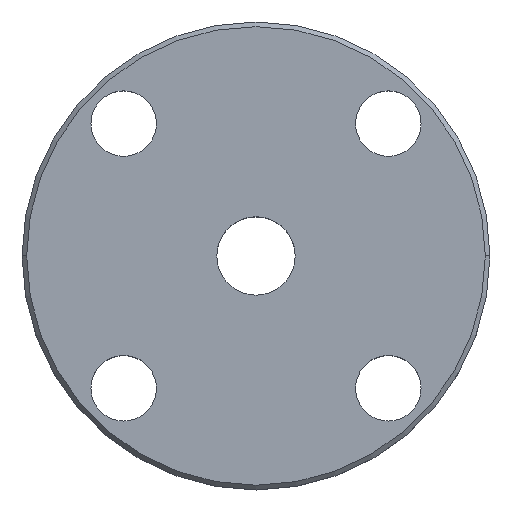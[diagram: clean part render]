
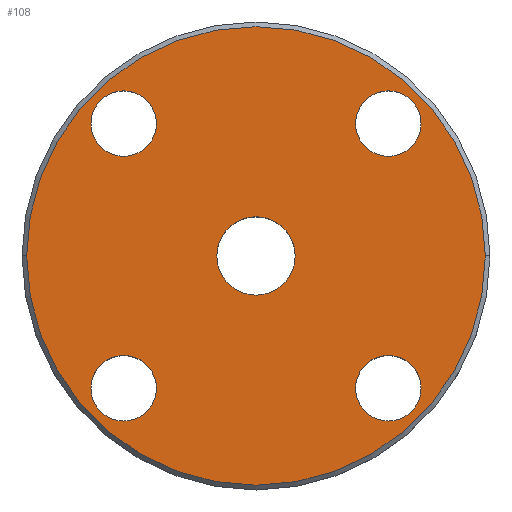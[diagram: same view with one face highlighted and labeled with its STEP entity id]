
A CAD part, top view. The second image highlights one B-rep face of the part: STEP entity #108.
In plain terms, the highlighted planar face has unit normal (0, 0, 1).
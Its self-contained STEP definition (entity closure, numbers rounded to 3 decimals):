
#3 = CIRCLE ( 'NONE', #862, 24.5 ) ;
#23 = CARTESIAN_POINT ( 'NONE',  ( -14.142, -17.642, 161. ) ) ;
#43 = ORIENTED_EDGE ( 'NONE', *, *, #992, .F. ) ;
#51 = AXIS2_PLACEMENT_3D ( 'NONE', #1113, #1017, #181 ) ;
#54 = DIRECTION ( 'NONE',  ( 0., 1., 0. ) ) ;
#63 = CARTESIAN_POINT ( 'NONE',  ( 14.142, 10.642, 161. ) ) ;
#72 = CARTESIAN_POINT ( 'NONE',  ( 0., 0., 161. ) ) ;
#85 = DIRECTION ( 'NONE',  ( 0., 0., -1. ) ) ;
#101 = CARTESIAN_POINT ( 'NONE',  ( -4.188, 0., 161. ) ) ;
#108 = ADVANCED_FACE ( 'NONE', ( #517, #1076, #608, #891, #792, #242 ), #719, .T. ) ;
#112 = VERTEX_POINT ( 'NONE', #986 ) ;
#136 = CARTESIAN_POINT ( 'NONE',  ( -14.142, 14.142, 161. ) ) ;
#154 = EDGE_CURVE ( 'NONE', #1044, #1025, #530, .T. ) ;
#159 = DIRECTION ( 'NONE',  ( 1., 0., 0. ) ) ;
#166 = CIRCLE ( 'NONE', #739, 3.5 ) ;
#181 = DIRECTION ( 'NONE',  ( 0., 1., 0. ) ) ;
#189 = VERTEX_POINT ( 'NONE', #523 ) ;
#190 = CARTESIAN_POINT ( 'NONE',  ( 4.188, 0., 161. ) ) ;
#192 = ORIENTED_EDGE ( 'NONE', *, *, #491, .T. ) ;
#196 = EDGE_CURVE ( 'NONE', #480, #932, #166, .T. ) ;
#214 = EDGE_CURVE ( 'NONE', #735, #189, #834, .T. ) ;
#232 = DIRECTION ( 'NONE',  ( -1., 0., 0. ) ) ;
#236 = DIRECTION ( 'NONE',  ( 0., 0., -1. ) ) ;
#242 = FACE_OUTER_BOUND ( 'NONE', #747, .T. ) ;
#259 = CARTESIAN_POINT ( 'NONE',  ( -14.142, -14.142, 161. ) ) ;
#273 = CARTESIAN_POINT ( 'NONE',  ( 0., 0., 161. ) ) ;
#275 = CARTESIAN_POINT ( 'NONE',  ( -24.5, 0., 161. ) ) ;
#277 = EDGE_CURVE ( 'NONE', #998, #847, #314, .T. ) ;
#286 = CARTESIAN_POINT ( 'NONE',  ( -17.642, 14.142, 161. ) ) ;
#306 = DIRECTION ( 'NONE',  ( 0., 1., 0. ) ) ;
#312 = AXIS2_PLACEMENT_3D ( 'NONE', #1081, #901, #737 ) ;
#314 = CIRCLE ( 'NONE', #427, 3.5 ) ;
#316 = EDGE_CURVE ( 'NONE', #847, #998, #795, .T. ) ;
#334 = DIRECTION ( 'NONE',  ( 0., 0., -1. ) ) ;
#345 = CARTESIAN_POINT ( 'NONE',  ( -14.142, -14.142, 161. ) ) ;
#355 = CIRCLE ( 'NONE', #453, 3.5 ) ;
#362 = CIRCLE ( 'NONE', #312, 4.188 ) ;
#371 = DIRECTION ( 'NONE',  ( 0., 0., -1. ) ) ;
#384 = ORIENTED_EDGE ( 'NONE', *, *, #214, .F. ) ;
#412 = CIRCLE ( 'NONE', #927, 3.5 ) ;
#413 = DIRECTION ( 'NONE',  ( -1., 0., 0. ) ) ;
#425 = AXIS2_PLACEMENT_3D ( 'NONE', #433, #537, #908 ) ;
#427 = AXIS2_PLACEMENT_3D ( 'NONE', #136, #977, #413 ) ;
#433 = CARTESIAN_POINT ( 'NONE',  ( 14.142, -14.142, 161. ) ) ;
#434 = DIRECTION ( 'NONE',  ( -1., 0., 0. ) ) ;
#453 = AXIS2_PLACEMENT_3D ( 'NONE', #511, #236, #306 ) ;
#454 = CARTESIAN_POINT ( 'NONE',  ( 17.642, -14.142, 161. ) ) ;
#473 = ORIENTED_EDGE ( 'NONE', *, *, #316, .T. ) ;
#474 = ORIENTED_EDGE ( 'NONE', *, *, #738, .T. ) ;
#480 = VERTEX_POINT ( 'NONE', #510 ) ;
#481 = EDGE_LOOP ( 'NONE', ( #192, #880 ) ) ;
#484 = EDGE_LOOP ( 'NONE', ( #652, #954 ) ) ;
#491 = EDGE_CURVE ( 'NONE', #1060, #112, #412, .T. ) ;
#506 = ORIENTED_EDGE ( 'NONE', *, *, #1096, .T. ) ;
#510 = CARTESIAN_POINT ( 'NONE',  ( 10.642, -14.142, 161. ) ) ;
#511 = CARTESIAN_POINT ( 'NONE',  ( 14.142, 14.142, 161. ) ) ;
#514 = DIRECTION ( 'NONE',  ( -1., 0., 0. ) ) ;
#517 = FACE_BOUND ( 'NONE', #484, .T. ) ;
#523 = CARTESIAN_POINT ( 'NONE',  ( 24.5, 0., 161. ) ) ;
#529 = DIRECTION ( 'NONE',  ( 0., 0., -1. ) ) ;
#530 = CIRCLE ( 'NONE', #1055, 4.188 ) ;
#537 = DIRECTION ( 'NONE',  ( 0., 0., -1. ) ) ;
#563 = CIRCLE ( 'NONE', #51, 3.5 ) ;
#582 = ORIENTED_EDGE ( 'NONE', *, *, #154, .T. ) ;
#585 = AXIS2_PLACEMENT_3D ( 'NONE', #72, #334, #434 ) ;
#596 = VERTEX_POINT ( 'NONE', #1012 ) ;
#608 = FACE_BOUND ( 'NONE', #1153, .T. ) ;
#613 = CARTESIAN_POINT ( 'NONE',  ( 14.142, -14.142, 161. ) ) ;
#626 = DIRECTION ( 'NONE',  ( 0., -1., 0. ) ) ;
#639 = EDGE_LOOP ( 'NONE', ( #939, #582 ) ) ;
#640 = EDGE_CURVE ( 'NONE', #112, #1060, #1028, .T. ) ;
#652 = ORIENTED_EDGE ( 'NONE', *, *, #918, .T. ) ;
#656 = EDGE_LOOP ( 'NONE', ( #658, #473 ) ) ;
#658 = ORIENTED_EDGE ( 'NONE', *, *, #277, .T. ) ;
#682 = DIRECTION ( 'NONE',  ( 0., 0., -1. ) ) ;
#709 = DIRECTION ( 'NONE',  ( 0., 0., 1. ) ) ;
#712 = DIRECTION ( 'NONE',  ( 0., 0., -1. ) ) ;
#719 = PLANE ( 'NONE',  #900 ) ;
#735 = VERTEX_POINT ( 'NONE', #275 ) ;
#737 = DIRECTION ( 'NONE',  ( -1., 0., 0. ) ) ;
#738 = EDGE_CURVE ( 'NONE', #962, #596, #563, .T. ) ;
#739 = AXIS2_PLACEMENT_3D ( 'NONE', #613, #810, #159 ) ;
#747 = EDGE_LOOP ( 'NONE', ( #384, #43 ) ) ;
#792 = FACE_BOUND ( 'NONE', #639, .T. ) ;
#795 = CIRCLE ( 'NONE', #894, 3.5 ) ;
#799 = CARTESIAN_POINT ( 'NONE',  ( 0., 0., 161. ) ) ;
#805 = CARTESIAN_POINT ( 'NONE',  ( 0., 0., 161. ) ) ;
#810 = DIRECTION ( 'NONE',  ( 0., 0., -1. ) ) ;
#811 = DIRECTION ( 'NONE',  ( 0., -1., 0. ) ) ;
#828 = DIRECTION ( 'NONE',  ( -1., 0., 0. ) ) ;
#834 = CIRCLE ( 'NONE', #585, 24.5 ) ;
#847 = VERTEX_POINT ( 'NONE', #1190 ) ;
#862 = AXIS2_PLACEMENT_3D ( 'NONE', #273, #371, #828 ) ;
#880 = ORIENTED_EDGE ( 'NONE', *, *, #640, .T. ) ;
#891 = FACE_BOUND ( 'NONE', #656, .T. ) ;
#894 = AXIS2_PLACEMENT_3D ( 'NONE', #971, #682, #232 ) ;
#900 = AXIS2_PLACEMENT_3D ( 'NONE', #805, #709, #54 ) ;
#901 = DIRECTION ( 'NONE',  ( 0., 0., -1. ) ) ;
#908 = DIRECTION ( 'NONE',  ( 1., 0., 0. ) ) ;
#918 = EDGE_CURVE ( 'NONE', #932, #480, #944, .T. ) ;
#927 = AXIS2_PLACEMENT_3D ( 'NONE', #345, #712, #811 ) ;
#932 = VERTEX_POINT ( 'NONE', #454 ) ;
#939 = ORIENTED_EDGE ( 'NONE', *, *, #974, .T. ) ;
#944 = CIRCLE ( 'NONE', #425, 3.5 ) ;
#954 = ORIENTED_EDGE ( 'NONE', *, *, #196, .T. ) ;
#962 = VERTEX_POINT ( 'NONE', #63 ) ;
#971 = CARTESIAN_POINT ( 'NONE',  ( -14.142, 14.142, 161. ) ) ;
#974 = EDGE_CURVE ( 'NONE', #1025, #1044, #362, .T. ) ;
#977 = DIRECTION ( 'NONE',  ( 0., 0., -1. ) ) ;
#986 = CARTESIAN_POINT ( 'NONE',  ( -14.142, -10.642, 161. ) ) ;
#992 = EDGE_CURVE ( 'NONE', #189, #735, #3, .T. ) ;
#998 = VERTEX_POINT ( 'NONE', #286 ) ;
#1012 = CARTESIAN_POINT ( 'NONE',  ( 14.142, 17.642, 161. ) ) ;
#1017 = DIRECTION ( 'NONE',  ( 0., 0., -1. ) ) ;
#1025 = VERTEX_POINT ( 'NONE', #101 ) ;
#1028 = CIRCLE ( 'NONE', #1131, 3.5 ) ;
#1044 = VERTEX_POINT ( 'NONE', #190 ) ;
#1055 = AXIS2_PLACEMENT_3D ( 'NONE', #799, #529, #514 ) ;
#1060 = VERTEX_POINT ( 'NONE', #23 ) ;
#1076 = FACE_BOUND ( 'NONE', #481, .T. ) ;
#1081 = CARTESIAN_POINT ( 'NONE',  ( 0., 0., 161. ) ) ;
#1096 = EDGE_CURVE ( 'NONE', #596, #962, #355, .T. ) ;
#1113 = CARTESIAN_POINT ( 'NONE',  ( 14.142, 14.142, 161. ) ) ;
#1131 = AXIS2_PLACEMENT_3D ( 'NONE', #259, #85, #626 ) ;
#1153 = EDGE_LOOP ( 'NONE', ( #506, #474 ) ) ;
#1190 = CARTESIAN_POINT ( 'NONE',  ( -10.642, 14.142, 161. ) ) ;
